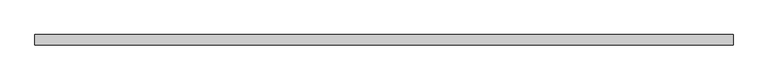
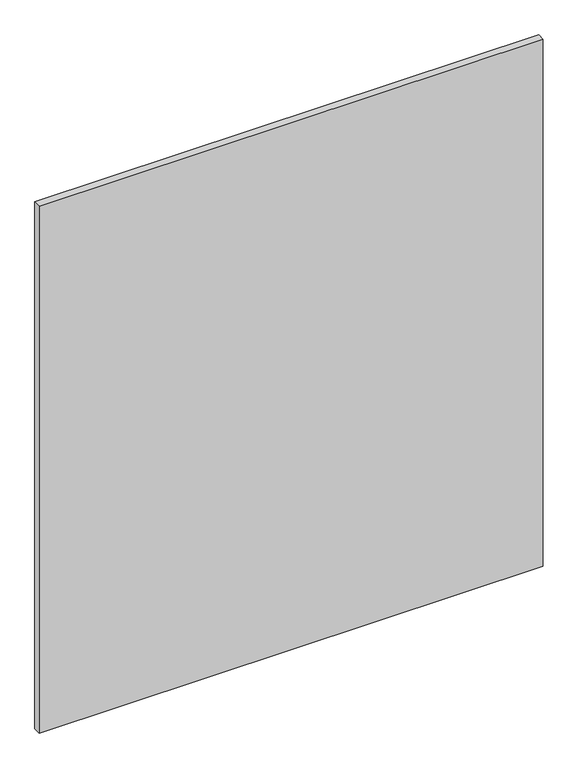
"""IFC4 building model written with IfcOpenShell, lengths in millimetres: plate geometry, Vitré."""

from ifc_helpers import new_model, si_unit, origin, origin_with_axes, place, context, project, spatial, polyline, outline, extrude, source, transform, mapped, element, save


def plate_ba3b8ffd(model_context):
    return source(origin(), model_context, "Body", "SweptSolid", [
        extrude(outline(polyline([(-1379.40625, -20.0), (-1379.40625, 20.0), (1379.40625, 20.0), (1379.40625, -20.0), (-1379.40625, -20.0)])), origin_with_axes(), (0.0, 0.0, 1.0), 3047.625),
    ])


if __name__ == "__main__":
    model = new_model("IFC4")
    model_context = context("Model", 3, world=origin())
    ifc_project = project(units=[si_unit("LENGTHUNIT", "METRE", prefix="MILLI")], contexts=[model_context])
    site = spatial("IfcSite", under=ifc_project)
    building = spatial("IfcBuilding", under=site)
    placement = place(None, origin())
    plate_shape = plate_ba3b8ffd(model_context)
    element("IfcPlate", 1, ObjectType="Vitré", at=placement, inside=building, context=model_context, shape_type="MappedRepresentation", body=[
        mapped(plate_shape, transform((0.0, 0.0, 0.0), x_axis=(1.0, 0.0, 0.0), y_axis=(0.0, 1.0, 0.0), z_axis=(0.0, 0.0, 1.0))),
    ])
    save(model, "model.ifc")
